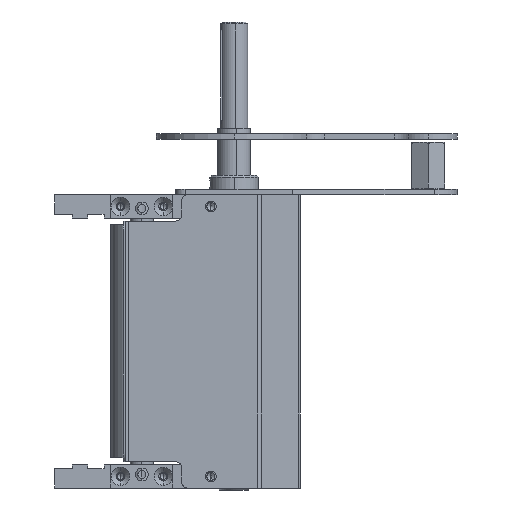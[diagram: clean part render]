
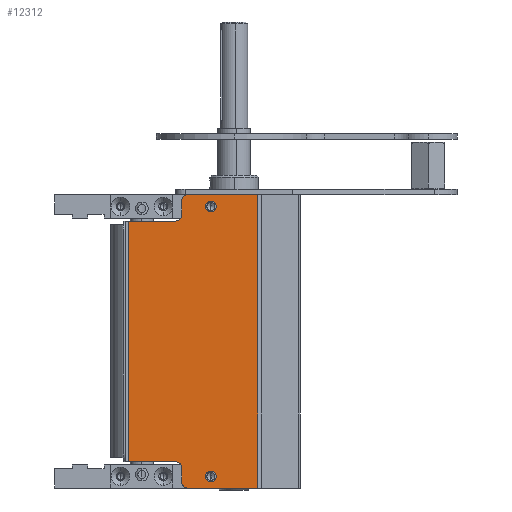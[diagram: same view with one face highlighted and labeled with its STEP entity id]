
A CAD part, left-side view. The second image highlights one B-rep face of the part: STEP entity #12312.
In plain terms, the highlighted planar face has unit normal (-1, 0, 0) as drawn and (1, 0, 0) by its records, which use the part's own axes.
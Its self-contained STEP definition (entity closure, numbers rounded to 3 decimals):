
#55 = CARTESIAN_POINT ( 'NONE',  ( 51.5, 59.5, -3. ) ) ;
#303 = EDGE_CURVE ( 'NONE', #14401, #10219, #851, .T. ) ;
#367 = VERTEX_POINT ( 'NONE', #6071 ) ;
#475 = VECTOR ( 'NONE', #5444, 1000. ) ;
#477 = CARTESIAN_POINT ( 'NONE',  ( 51.5, 62.5, -13.5 ) ) ;
#851 = LINE ( 'NONE', #12744, #475 ) ;
#879 = ORIENTED_EDGE ( 'NONE', *, *, #7409, .F. ) ;
#903 = CARTESIAN_POINT ( 'NONE',  ( 51.5, 62.5, -140.5 ) ) ;
#1023 = EDGE_CURVE ( 'NONE', #2430, #2777, #15098, .T. ) ;
#1024 = AXIS2_PLACEMENT_3D ( 'NONE', #903, #14246, #9496 ) ;
#1106 = LINE ( 'NONE', #4961, #5425 ) ;
#1126 = DIRECTION ( 'NONE',  ( 0., 1., 0. ) ) ;
#1260 = ORIENTED_EDGE ( 'NONE', *, *, #8120, .F. ) ;
#1361 = AXIS2_PLACEMENT_3D ( 'NONE', #10824, #3531, #12025 ) ;
#1467 = DIRECTION ( 'NONE',  ( 0., 1., 0. ) ) ;
#1655 = CIRCLE ( 'NONE', #10711, 3. ) ;
#1780 = AXIS2_PLACEMENT_3D ( 'NONE', #5914, #14509, #1126 ) ;
#1854 = CARTESIAN_POINT ( 'NONE',  ( 51.5, 59.5, -148. ) ) ;
#1911 = DIRECTION ( 'NONE',  ( 1., 0., 0. ) ) ;
#2294 = DIRECTION ( 'NONE',  ( 1., 0., 0. ) ) ;
#2352 = DIRECTION ( 'NONE',  ( 0., 0., 1. ) ) ;
#2430 = VERTEX_POINT ( 'NONE', #11571 ) ;
#2649 = AXIS2_PLACEMENT_3D ( 'NONE', #3149, #7931, #15229 ) ;
#2719 = CARTESIAN_POINT ( 'NONE',  ( 51.5, 41.75, -145. ) ) ;
#2777 = VERTEX_POINT ( 'NONE', #7238 ) ;
#2994 = VERTEX_POINT ( 'NONE', #11434 ) ;
#3149 = CARTESIAN_POINT ( 'NONE',  ( 51.5, 44.5, -145. ) ) ;
#3314 = LINE ( 'NONE', #12054, #14301 ) ;
#3334 = ORIENTED_EDGE ( 'NONE', *, *, #13929, .T. ) ;
#3531 = DIRECTION ( 'NONE',  ( -1., 0., 0. ) ) ;
#3697 = EDGE_CURVE ( 'NONE', #4498, #15100, #4052, .T. ) ;
#3835 = DIRECTION ( 'NONE',  ( 1., 0., 0. ) ) ;
#3976 = DIRECTION ( 'NONE',  ( 0., 1., 0. ) ) ;
#4052 = CIRCLE ( 'NONE', #1361, 3. ) ;
#4339 = DIRECTION ( 'NONE',  ( 0., 1., 0. ) ) ;
#4398 = EDGE_CURVE ( 'NONE', #367, #13717, #1106, .T. ) ;
#4498 = VERTEX_POINT ( 'NONE', #477 ) ;
#4741 = DIRECTION ( 'NONE',  ( 1., 0., 0. ) ) ;
#4961 = CARTESIAN_POINT ( 'NONE',  ( 51.5, 59.5, -151. ) ) ;
#5019 = CARTESIAN_POINT ( 'NONE',  ( 51.5, 62.5, -137.5 ) ) ;
#5215 = DIRECTION ( 'NONE',  ( 0., 1., 0. ) ) ;
#5236 = CIRCLE ( 'NONE', #1780, 2.75 ) ;
#5260 = VERTEX_POINT ( 'NONE', #8102 ) ;
#5274 = FACE_BOUND ( 'NONE', #5411, .T. ) ;
#5411 = EDGE_LOOP ( 'NONE', ( #8760, #10436 ) ) ;
#5425 = VECTOR ( 'NONE', #12365, 1000. ) ;
#5444 = DIRECTION ( 'NONE',  ( 0., 1., 0. ) ) ;
#5546 = CARTESIAN_POINT ( 'NONE',  ( 51.5, 44.5, -6. ) ) ;
#5647 = CARTESIAN_POINT ( 'NONE',  ( 51.5, 87., -151. ) ) ;
#5753 = EDGE_CURVE ( 'NONE', #5871, #10219, #7348, .T. ) ;
#5871 = VERTEX_POINT ( 'NONE', #55 ) ;
#5914 = CARTESIAN_POINT ( 'NONE',  ( 51.5, 44.5, -6. ) ) ;
#5996 = CIRCLE ( 'NONE', #2649, 2.75 ) ;
#5999 = EDGE_LOOP ( 'NONE', ( #7916, #13059, #10335, #7982, #13249, #3334, #1260, #9053, #14991, #13320, #11709, #14304 ) ) ;
#6043 = LINE ( 'NONE', #6686, #7587 ) ;
#6071 = CARTESIAN_POINT ( 'NONE',  ( 51.5, 59.5, -140.5 ) ) ;
#6431 = EDGE_CURVE ( 'NONE', #9364, #11943, #5996, .T. ) ;
#6521 = DIRECTION ( 'NONE',  ( 0., 1., 0. ) ) ;
#6531 = DIRECTION ( 'NONE',  ( 0., 0., -1. ) ) ;
#6686 = CARTESIAN_POINT ( 'NONE',  ( 51.5, 19.793, -13.5 ) ) ;
#6730 = VECTOR ( 'NONE', #11797, 1000. ) ;
#6805 = VERTEX_POINT ( 'NONE', #8591 ) ;
#6882 = VERTEX_POINT ( 'NONE', #11359 ) ;
#7106 = CIRCLE ( 'NONE', #11786, 2.75 ) ;
#7126 = CARTESIAN_POINT ( 'NONE',  ( 51.5, 47.25, -145. ) ) ;
#7238 = CARTESIAN_POINT ( 'NONE',  ( 51.5, 56.5, -151. ) ) ;
#7348 = CIRCLE ( 'NONE', #13688, 3. ) ;
#7353 = FACE_OUTER_BOUND ( 'NONE', #5999, .T. ) ;
#7409 = EDGE_CURVE ( 'NONE', #11943, #9364, #7106, .T. ) ;
#7561 = AXIS2_PLACEMENT_3D ( 'NONE', #10133, #9016, #3976 ) ;
#7587 = VECTOR ( 'NONE', #6521, 1000. ) ;
#7916 = ORIENTED_EDGE ( 'NONE', *, *, #1023, .T. ) ;
#7931 = DIRECTION ( 'NONE',  ( 1., 0., 0. ) ) ;
#7982 = ORIENTED_EDGE ( 'NONE', *, *, #10569, .T. ) ;
#8037 = VECTOR ( 'NONE', #6531, 1000. ) ;
#8102 = CARTESIAN_POINT ( 'NONE',  ( 51.5, 87., -137.5 ) ) ;
#8120 = EDGE_CURVE ( 'NONE', #4498, #2994, #6043, .T. ) ;
#8273 = DIRECTION ( 'NONE',  ( 0., 1., 0. ) ) ;
#8591 = CARTESIAN_POINT ( 'NONE',  ( 51.5, 47.25, -6. ) ) ;
#8695 = FACE_BOUND ( 'NONE', #11712, .T. ) ;
#8760 = ORIENTED_EDGE ( 'NONE', *, *, #13351, .F. ) ;
#8900 = CARTESIAN_POINT ( 'NONE',  ( 51.5, 59.5, -151. ) ) ;
#9016 = DIRECTION ( 'NONE',  ( 1., 0., 0. ) ) ;
#9037 = VERTEX_POINT ( 'NONE', #5019 ) ;
#9053 = ORIENTED_EDGE ( 'NONE', *, *, #3697, .T. ) ;
#9364 = VERTEX_POINT ( 'NONE', #7126 ) ;
#9496 = DIRECTION ( 'NONE',  ( 0., 1., 0. ) ) ;
#9819 = CARTESIAN_POINT ( 'NONE',  ( 51.5, 56.5, 0. ) ) ;
#10133 = CARTESIAN_POINT ( 'NONE',  ( 51.5, 19.793, -151. ) ) ;
#10219 = VERTEX_POINT ( 'NONE', #9819 ) ;
#10335 = ORIENTED_EDGE ( 'NONE', *, *, #4398, .F. ) ;
#10436 = ORIENTED_EDGE ( 'NONE', *, *, #12420, .F. ) ;
#10569 = EDGE_CURVE ( 'NONE', #367, #9037, #14623, .T. ) ;
#10711 = AXIS2_PLACEMENT_3D ( 'NONE', #10829, #4741, #15678 ) ;
#10779 = CIRCLE ( 'NONE', #11118, 2.75 ) ;
#10790 = CARTESIAN_POINT ( 'NONE',  ( 51.5, 56.5, -3. ) ) ;
#10824 = CARTESIAN_POINT ( 'NONE',  ( 51.5, 62.5, -10.5 ) ) ;
#10829 = CARTESIAN_POINT ( 'NONE',  ( 51.5, 56.5, -148. ) ) ;
#10959 = VECTOR ( 'NONE', #13273, 1000. ) ;
#11118 = AXIS2_PLACEMENT_3D ( 'NONE', #5546, #1911, #4339 ) ;
#11263 = LINE ( 'NONE', #8900, #8037 ) ;
#11324 = CARTESIAN_POINT ( 'NONE',  ( 51.5, 20.414, 0. ) ) ;
#11359 = CARTESIAN_POINT ( 'NONE',  ( 51.5, 41.75, -6. ) ) ;
#11434 = CARTESIAN_POINT ( 'NONE',  ( 51.5, 87., -13.5 ) ) ;
#11571 = CARTESIAN_POINT ( 'NONE',  ( 51.5, 20.414, -151. ) ) ;
#11709 = ORIENTED_EDGE ( 'NONE', *, *, #303, .F. ) ;
#11712 = EDGE_LOOP ( 'NONE', ( #879, #15105 ) ) ;
#11786 = AXIS2_PLACEMENT_3D ( 'NONE', #12332, #3835, #1467 ) ;
#11797 = DIRECTION ( 'NONE',  ( 0., 0., 1. ) ) ;
#11943 = VERTEX_POINT ( 'NONE', #2719 ) ;
#12025 = DIRECTION ( 'NONE',  ( 0., 1., 0. ) ) ;
#12054 = CARTESIAN_POINT ( 'NONE',  ( 51.5, 20.414, -151. ) ) ;
#12312 = ADVANCED_FACE ( 'NONE', ( #5274, #8695, #7353 ), #13729, .T. ) ;
#12332 = CARTESIAN_POINT ( 'NONE',  ( 51.5, 44.5, -145. ) ) ;
#12365 = DIRECTION ( 'NONE',  ( 0., 0., -1. ) ) ;
#12392 = CARTESIAN_POINT ( 'NONE',  ( 51.5, 19.793, -151. ) ) ;
#12420 = EDGE_CURVE ( 'NONE', #6805, #6882, #10779, .T. ) ;
#12448 = CARTESIAN_POINT ( 'NONE',  ( 51.5, 59.5, -10.5 ) ) ;
#12649 = VECTOR ( 'NONE', #5215, 1000. ) ;
#12744 = CARTESIAN_POINT ( 'NONE',  ( 51.5, 19.793, 0. ) ) ;
#12906 = EDGE_CURVE ( 'NONE', #5260, #9037, #14171, .T. ) ;
#13059 = ORIENTED_EDGE ( 'NONE', *, *, #13392, .T. ) ;
#13249 = ORIENTED_EDGE ( 'NONE', *, *, #12906, .F. ) ;
#13273 = DIRECTION ( 'NONE',  ( 0., -1., 0. ) ) ;
#13320 = ORIENTED_EDGE ( 'NONE', *, *, #5753, .T. ) ;
#13351 = EDGE_CURVE ( 'NONE', #6882, #6805, #5236, .T. ) ;
#13392 = EDGE_CURVE ( 'NONE', #2777, #13717, #1655, .T. ) ;
#13688 = AXIS2_PLACEMENT_3D ( 'NONE', #10790, #2294, #8273 ) ;
#13717 = VERTEX_POINT ( 'NONE', #1854 ) ;
#13729 = PLANE ( 'NONE',  #7561 ) ;
#13762 = LINE ( 'NONE', #5647, #6730 ) ;
#13929 = EDGE_CURVE ( 'NONE', #5260, #2994, #13762, .T. ) ;
#14100 = EDGE_CURVE ( 'NONE', #2430, #14401, #3314, .T. ) ;
#14171 = LINE ( 'NONE', #14599, #10959 ) ;
#14246 = DIRECTION ( 'NONE',  ( -1., 0., 0. ) ) ;
#14301 = VECTOR ( 'NONE', #2352, 1000. ) ;
#14304 = ORIENTED_EDGE ( 'NONE', *, *, #14100, .F. ) ;
#14401 = VERTEX_POINT ( 'NONE', #11324 ) ;
#14509 = DIRECTION ( 'NONE',  ( 1., 0., 0. ) ) ;
#14599 = CARTESIAN_POINT ( 'NONE',  ( 51.5, 19.793, -137.5 ) ) ;
#14623 = CIRCLE ( 'NONE', #1024, 3. ) ;
#14991 = ORIENTED_EDGE ( 'NONE', *, *, #15474, .F. ) ;
#15098 = LINE ( 'NONE', #12392, #12649 ) ;
#15100 = VERTEX_POINT ( 'NONE', #12448 ) ;
#15105 = ORIENTED_EDGE ( 'NONE', *, *, #6431, .F. ) ;
#15229 = DIRECTION ( 'NONE',  ( 0., 1., 0. ) ) ;
#15474 = EDGE_CURVE ( 'NONE', #5871, #15100, #11263, .T. ) ;
#15678 = DIRECTION ( 'NONE',  ( 0., 1., 0. ) ) ;
